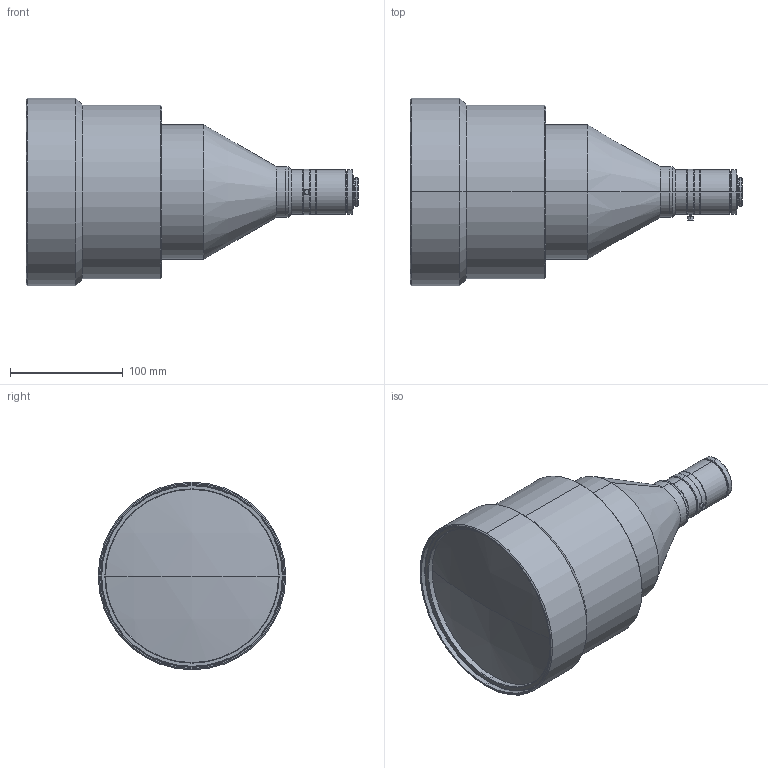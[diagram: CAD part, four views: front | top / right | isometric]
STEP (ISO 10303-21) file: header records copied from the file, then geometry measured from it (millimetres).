
FILE_DESCRIPTION (( 'STEP AP203' ), '1' );
FILE_NAME ('VS-THV011-220_S.STEP', '2016-05-23T02:17:20', ( '' ), ( '' ), 'SwSTEP 2.0', 'SolidWorks 2016', '' );
FILE_SCHEMA (( 'CONFIG_CONTROL_DESIGN' ));
Length unit declared in the file: millimetre
Products named in the file (1): VS-THV011-220_S
Bounding box: 293.97 x 166 x 166 mm (x, y, z)
Volume: 3095615.2 mm3; surface area: 141761.8 mm2
Topology: 1 solids, 1 shells, 160 faces, 330 edges, 188 vertices
Faces by surface type: cone 82, cylinder 54, plane 20, sphere 4
Entity records: 4255 total; most frequent: DIRECTION 826, CARTESIAN_POINT 703, ORIENTED_EDGE 644, AXIS2_PLACEMENT_3D 345, EDGE_CURVE 322, VERTEX_POINT 188, EDGE_LOOP 184, CIRCLE 184
